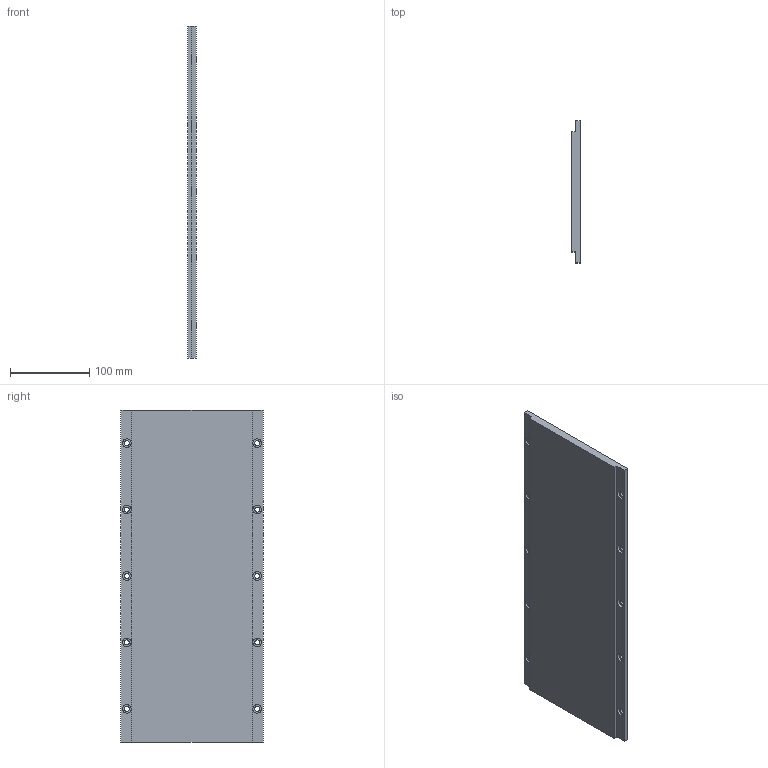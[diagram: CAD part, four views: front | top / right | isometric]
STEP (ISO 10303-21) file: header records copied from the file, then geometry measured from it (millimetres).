
FILE_DESCRIPTION (( 'STEP AP214' ), '1' );
FILE_NAME ('WKM150-420.STEP', '2025-09-05T12:11:11', ( '' ), ( '' ), 'SwSTEP 2.0', 'SolidWorks 2016', '' );
FILE_SCHEMA (( 'AUTOMOTIVE_DESIGN' ));
Length unit declared in the file: millimetre
Products named in the file (1): WKM150-420
Bounding box: 10.8 x 180 x 420 mm (x, y, z)
Volume: 756820.7 mm3; surface area: 164890.6 mm2
Topology: 1 solids, 1 shells, 60 faces, 144 edges, 96 vertices
Faces by surface type: cylinder 40, plane 20
Entity records: 1862 total; most frequent: DIRECTION 346, CARTESIAN_POINT 301, ORIENTED_EDGE 288, EDGE_CURVE 144, AXIS2_PLACEMENT_3D 141, VERTEX_POINT 96, EDGE_LOOP 90, CIRCLE 80
